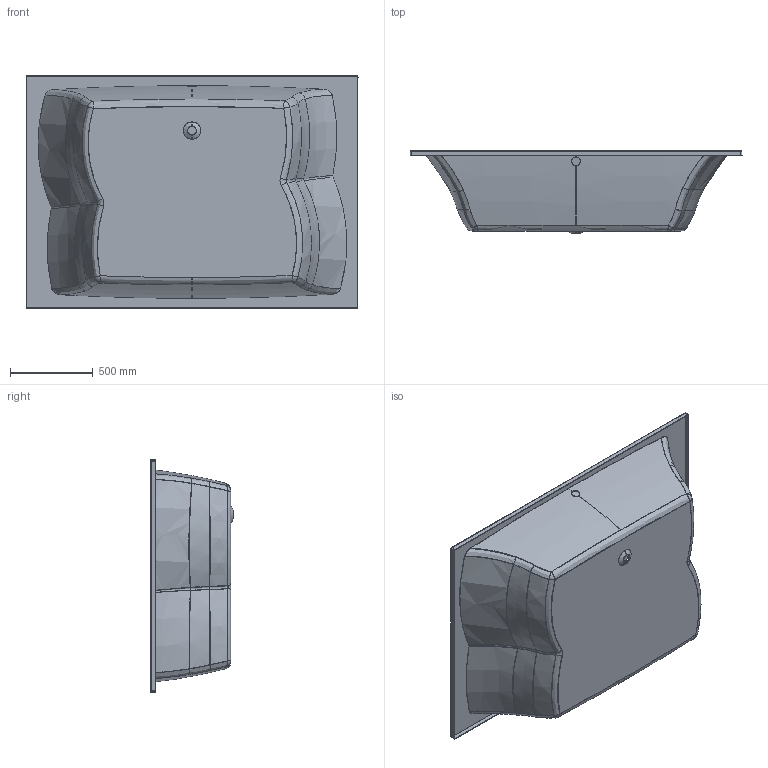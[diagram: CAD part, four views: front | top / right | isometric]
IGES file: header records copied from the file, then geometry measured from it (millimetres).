
Start section: SolidWorks IGES file using analytic representation for surfaces
Global section: file name: D:\Users\M.Szymanski\Desktop\Wanny\Largo\03. do przegrania\WPP_LA 200x140.IGS; native system: SolidWorks 2011; preprocessor: SolidWorks 2011; author: M.Szymanski; date: 180608.143349; units: millimetre
Bounding box: 2000 x 500.21 x 1400 mm (x, y, z)
Surface area: 9466108.4 mm2 (no closed solid volume)
Topology: 0 solids, 0 shells, 168 faces, 2113 edges, 2111 vertices
Faces by surface type: bspline 132, revolution 36
